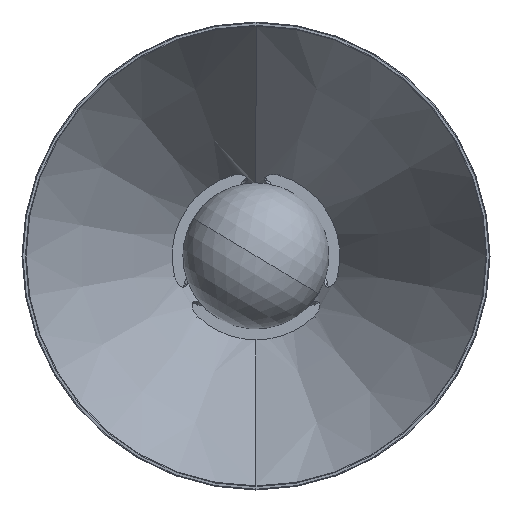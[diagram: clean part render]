
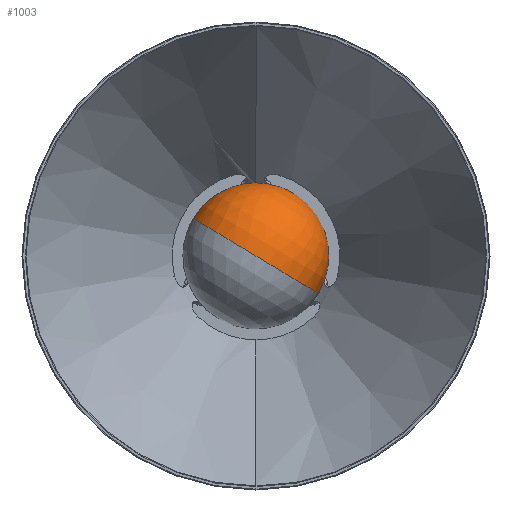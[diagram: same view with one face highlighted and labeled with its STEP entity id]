
A CAD part, front view. The second image highlights one B-rep face of the part: STEP entity #1003.
In plain terms, the highlighted spherical face has radius 22.6 mm.
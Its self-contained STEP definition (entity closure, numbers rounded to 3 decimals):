
#271 = AXIS2_PLACEMENT_3D ( 'NONE', #2724, #6112, #3220 ) ;
#387 = AXIS2_PLACEMENT_3D ( 'NONE', #3775, #1880, #1818 ) ;
#742 = EDGE_CURVE ( 'NONE', #2088, #1351, #2708, .T. ) ;
#964 = ORIENTED_EDGE ( 'NONE', *, *, #2404, .T. ) ;
#969 = DIRECTION ( 'NONE',  ( -0.515, 0., -0.857 ) ) ;
#1003 = ADVANCED_FACE ( 'NONE', ( #4717 ), #1843, .T. ) ;
#1009 = CARTESIAN_POINT ( 'NONE',  ( 7.59, -195.43, 12.634 ) ) ;
#1159 = CARTESIAN_POINT ( 'NONE',  ( 0., -235.162, 0. ) ) ;
#1339 = CARTESIAN_POINT ( 'NONE',  ( -12.634, -195.43, 7.59 ) ) ;
#1340 = ORIENTED_EDGE ( 'NONE', *, *, #6021, .T. ) ;
#1351 = VERTEX_POINT ( 'NONE', #3755 ) ;
#1804 = CIRCLE ( 'NONE', #387, 14.739 ) ;
#1818 = DIRECTION ( 'NONE',  ( -0.515, 0., -0.857 ) ) ;
#1843 = SPHERICAL_SURFACE ( 'NONE', #3480, 22.6 ) ;
#1880 = DIRECTION ( 'NONE',  ( 0., -1., 0. ) ) ;
#2088 = VERTEX_POINT ( 'NONE', #1159 ) ;
#2307 = CARTESIAN_POINT ( 'NONE',  ( 0., -212.562, 0. ) ) ;
#2367 = DIRECTION ( 'NONE',  ( 0.857, 0., -0.515 ) ) ;
#2404 = EDGE_CURVE ( 'NONE', #3843, #3124, #4079, .T. ) ;
#2708 = CIRCLE ( 'NONE', #5534, 22.6 ) ;
#2724 = CARTESIAN_POINT ( 'NONE',  ( 0., -195.43, 0. ) ) ;
#2872 = CARTESIAN_POINT ( 'NONE',  ( 0., -212.562, 0. ) ) ;
#3124 = VERTEX_POINT ( 'NONE', #1339 ) ;
#3220 = DIRECTION ( 'NONE',  ( -0.515, 0., -0.857 ) ) ;
#3322 = DIRECTION ( 'NONE',  ( 0.515, 0., 0.857 ) ) ;
#3480 = AXIS2_PLACEMENT_3D ( 'NONE', #2307, #3322, #4753 ) ;
#3755 = CARTESIAN_POINT ( 'NONE',  ( 12.634, -195.43, -7.59 ) ) ;
#3775 = CARTESIAN_POINT ( 'NONE',  ( 0., -195.43, 0. ) ) ;
#3843 = VERTEX_POINT ( 'NONE', #1009 ) ;
#3924 = EDGE_LOOP ( 'NONE', ( #6046, #5839, #1340, #964 ) ) ;
#3968 = EDGE_CURVE ( 'NONE', #2088, #3124, #3969, .T. ) ;
#3969 = CIRCLE ( 'NONE', #4573, 22.6 ) ;
#4079 = CIRCLE ( 'NONE', #271, 14.739 ) ;
#4263 = DIRECTION ( 'NONE',  ( 0.515, 0., 0.857 ) ) ;
#4573 = AXIS2_PLACEMENT_3D ( 'NONE', #6181, #969, #4721 ) ;
#4717 = FACE_OUTER_BOUND ( 'NONE', #3924, .T. ) ;
#4721 = DIRECTION ( 'NONE',  ( -0.857, 0., 0.515 ) ) ;
#4753 = DIRECTION ( 'NONE',  ( -0.857, 0., 0.515 ) ) ;
#5534 = AXIS2_PLACEMENT_3D ( 'NONE', #2872, #4263, #2367 ) ;
#5839 = ORIENTED_EDGE ( 'NONE', *, *, #742, .T. ) ;
#6021 = EDGE_CURVE ( 'NONE', #1351, #3843, #1804, .T. ) ;
#6046 = ORIENTED_EDGE ( 'NONE', *, *, #3968, .F. ) ;
#6112 = DIRECTION ( 'NONE',  ( 0., -1., 0. ) ) ;
#6181 = CARTESIAN_POINT ( 'NONE',  ( 0., -212.562, 0. ) ) ;
